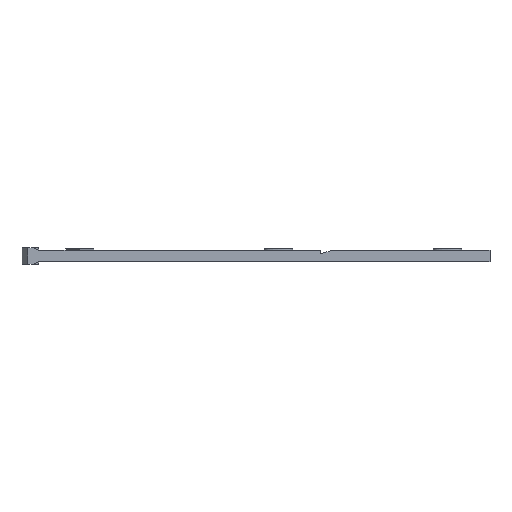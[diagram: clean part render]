
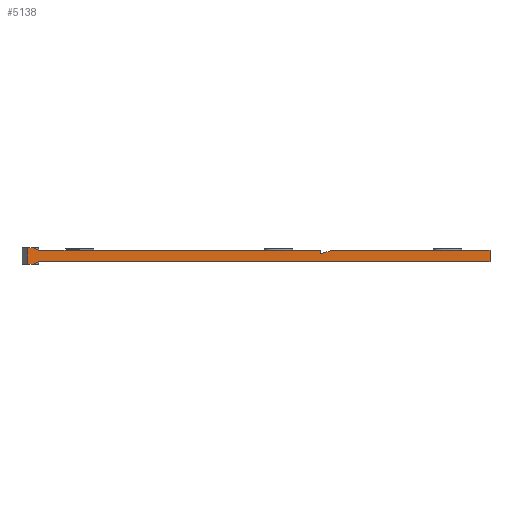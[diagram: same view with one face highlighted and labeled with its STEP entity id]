
A CAD part, front view. The second image highlights one B-rep face of the part: STEP entity #5138.
In plain terms, the highlighted planar face has unit normal (0, -1, 0).
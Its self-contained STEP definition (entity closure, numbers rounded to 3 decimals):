
#6 = EDGE_CURVE ( 'NONE', #3877, #3640, #4049, .T. ) ;
#24 = EDGE_CURVE ( 'NONE', #4204, #4180, #1490, .T. ) ;
#306 = PLANE ( 'NONE',  #1769 ) ;
#307 = CARTESIAN_POINT ( 'NONE',  ( 0., 0., 0. ) ) ;
#312 = DIRECTION ( 'NONE',  ( 0., 1., 0. ) ) ;
#313 = DIRECTION ( 'NONE',  ( 0., 0., 1. ) ) ;
#1289 = VECTOR ( 'NONE', #4564, 1000. ) ;
#1292 = VECTOR ( 'NONE', #4573, 1000. ) ;
#1296 = LINE ( 'NONE', #4565, #1289 ) ;
#1308 = LINE ( 'NONE', #4575, #1292 ) ;
#1490 = LINE ( 'NONE', #3176, #1492 ) ;
#1492 = VECTOR ( 'NONE', #3055, 1000. ) ;
#1769 = AXIS2_PLACEMENT_3D ( 'NONE', #307, #312, #313 ) ;
#1908 = LINE ( 'NONE', #4421, #1910 ) ;
#1910 = VECTOR ( 'NONE', #4418, 1000. ) ;
#2575 = LINE ( 'NONE', #4979, #2578 ) ;
#2577 = LINE ( 'NONE', #4599, #2583 ) ;
#2578 = VECTOR ( 'NONE', #4981, 1000. ) ;
#2579 = LINE ( 'NONE', #4597, #2582 ) ;
#2582 = VECTOR ( 'NONE', #4596, 1000. ) ;
#2583 = VECTOR ( 'NONE', #4598, 1000. ) ;
#2593 = LINE ( 'NONE', #4985, #2596 ) ;
#2596 = VECTOR ( 'NONE', #4571, 1000. ) ;
#2631 = LINE ( 'NONE', #4645, #2636 ) ;
#2636 = VECTOR ( 'NONE', #4622, 1000. ) ;
#2645 = LINE ( 'NONE', #4616, #2662 ) ;
#2662 = VECTOR ( 'NONE', #4588, 1000. ) ;
#3032 = DIRECTION ( 'NONE',  ( 1., 0., 0. ) ) ;
#3034 = CARTESIAN_POINT ( 'NONE',  ( -81., 0., 0.5 ) ) ;
#3055 = DIRECTION ( 'NONE',  ( 1., 0., 0. ) ) ;
#3176 = CARTESIAN_POINT ( 'NONE',  ( 0., 0., 0. ) ) ;
#3445 = CARTESIAN_POINT ( 'NONE',  ( -30., 0., 0. ) ) ;
#3457 = CARTESIAN_POINT ( 'NONE',  ( -80., 0., 0. ) ) ;
#3467 = CARTESIAN_POINT ( 'NONE',  ( 0., 0., -2. ) ) ;
#3468 = CARTESIAN_POINT ( 'NONE',  ( -81., 0., -2.5 ) ) ;
#3476 = CARTESIAN_POINT ( 'NONE',  ( -80., 0., -2. ) ) ;
#3483 = CARTESIAN_POINT ( 'NONE',  ( -81., 0., 0.5 ) ) ;
#3556 = CARTESIAN_POINT ( 'NONE',  ( -82., 0., -2.5 ) ) ;
#3570 = CARTESIAN_POINT ( 'NONE',  ( -82., 0., 0.5 ) ) ;
#3597 = CARTESIAN_POINT ( 'NONE',  ( -30., 0., -0.6 ) ) ;
#3631 = VERTEX_POINT ( 'NONE', #3468 ) ;
#3632 = VERTEX_POINT ( 'NONE', #3467 ) ;
#3635 = VERTEX_POINT ( 'NONE', #3476 ) ;
#3640 = VERTEX_POINT ( 'NONE', #3483 ) ;
#3655 = VERTEX_POINT ( 'NONE', #3457 ) ;
#3658 = EDGE_LOOP ( 'NONE', ( #5412, #5388, #5364, #5372, #5326, #5294, #5358, #5281, #5313, #5345, #5300 ) ) ;
#3723 = VERTEX_POINT ( 'NONE', #3445 ) ;
#3813 = VERTEX_POINT ( 'NONE', #3597 ) ;
#3877 = VERTEX_POINT ( 'NONE', #3570 ) ;
#3883 = VERTEX_POINT ( 'NONE', #3556 ) ;
#3953 = EDGE_CURVE ( 'NONE', #3723, #3813, #2575, .T. ) ;
#3956 = EDGE_CURVE ( 'NONE', #3813, #4204, #2593, .T. ) ;
#3983 = EDGE_CURVE ( 'NONE', #3883, #3877, #2631, .T. ) ;
#3995 = EDGE_CURVE ( 'NONE', #3635, #3631, #2577, .T. ) ;
#3996 = EDGE_CURVE ( 'NONE', #3631, #3883, #2579, .T. ) ;
#4000 = EDGE_CURVE ( 'NONE', #3640, #3655, #2645, .T. ) ;
#4007 = EDGE_CURVE ( 'NONE', #3632, #3635, #1308, .T. ) ;
#4010 = EDGE_CURVE ( 'NONE', #4180, #3632, #1296, .T. ) ;
#4030 = EDGE_CURVE ( 'NONE', #3655, #3723, #1908, .T. ) ;
#4046 = VECTOR ( 'NONE', #3032, 1000. ) ;
#4049 = LINE ( 'NONE', #3034, #4046 ) ;
#4180 = VERTEX_POINT ( 'NONE', #4410 ) ;
#4204 = VERTEX_POINT ( 'NONE', #4405 ) ;
#4337 = FACE_OUTER_BOUND ( 'NONE', #3658, .T. ) ;
#4405 = CARTESIAN_POINT ( 'NONE',  ( -28., 0., 0. ) ) ;
#4410 = CARTESIAN_POINT ( 'NONE',  ( 0., 0., 0. ) ) ;
#4418 = DIRECTION ( 'NONE',  ( 1., 0., 0. ) ) ;
#4421 = CARTESIAN_POINT ( 'NONE',  ( -30., 0., 0. ) ) ;
#4564 = DIRECTION ( 'NONE',  ( 0., 0., -1. ) ) ;
#4565 = CARTESIAN_POINT ( 'NONE',  ( 0., 0., 0. ) ) ;
#4571 = DIRECTION ( 'NONE',  ( 0.958, 0., 0.287 ) ) ;
#4573 = DIRECTION ( 'NONE',  ( -1., 0., 0. ) ) ;
#4575 = CARTESIAN_POINT ( 'NONE',  ( 0., 0., -2. ) ) ;
#4588 = DIRECTION ( 'NONE',  ( 0.894, 0., -0.447 ) ) ;
#4596 = DIRECTION ( 'NONE',  ( -1., 0., 0. ) ) ;
#4597 = CARTESIAN_POINT ( 'NONE',  ( -81., 0., -2.5 ) ) ;
#4598 = DIRECTION ( 'NONE',  ( -0.894, 0., -0.447 ) ) ;
#4599 = CARTESIAN_POINT ( 'NONE',  ( -80., 0., -2. ) ) ;
#4616 = CARTESIAN_POINT ( 'NONE',  ( -80., 0., 0. ) ) ;
#4622 = DIRECTION ( 'NONE',  ( 0., 0., 1. ) ) ;
#4645 = CARTESIAN_POINT ( 'NONE',  ( -82., 0., -2.5 ) ) ;
#4979 = CARTESIAN_POINT ( 'NONE',  ( -30., 0., 0. ) ) ;
#4981 = DIRECTION ( 'NONE',  ( 0., 0., -1. ) ) ;
#4985 = CARTESIAN_POINT ( 'NONE',  ( -30., 0., -0.6 ) ) ;
#5138 = ADVANCED_FACE ( 'NONE', ( #4337 ), #306, .F. ) ;
#5281 = ORIENTED_EDGE ( 'NONE', *, *, #3983, .F. ) ;
#5294 = ORIENTED_EDGE ( 'NONE', *, *, #4000, .F. ) ;
#5300 = ORIENTED_EDGE ( 'NONE', *, *, #4007, .F. ) ;
#5313 = ORIENTED_EDGE ( 'NONE', *, *, #3996, .F. ) ;
#5326 = ORIENTED_EDGE ( 'NONE', *, *, #4030, .F. ) ;
#5345 = ORIENTED_EDGE ( 'NONE', *, *, #3995, .F. ) ;
#5358 = ORIENTED_EDGE ( 'NONE', *, *, #6, .F. ) ;
#5364 = ORIENTED_EDGE ( 'NONE', *, *, #3956, .F. ) ;
#5372 = ORIENTED_EDGE ( 'NONE', *, *, #3953, .F. ) ;
#5388 = ORIENTED_EDGE ( 'NONE', *, *, #24, .F. ) ;
#5412 = ORIENTED_EDGE ( 'NONE', *, *, #4010, .F. ) ;
